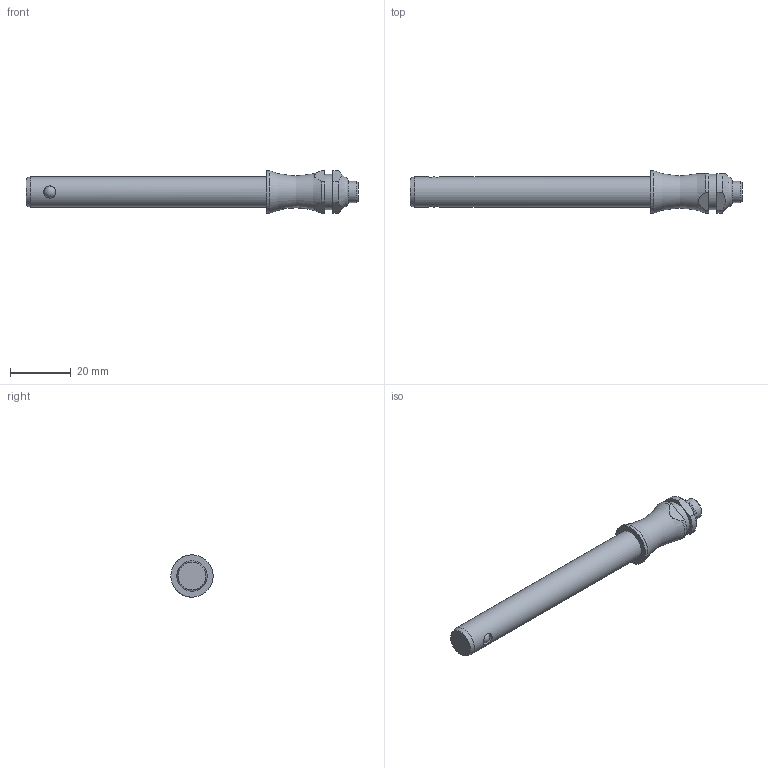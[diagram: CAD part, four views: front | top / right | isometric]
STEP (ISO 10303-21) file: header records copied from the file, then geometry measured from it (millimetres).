
FILE_DESCRIPTION( ( 'STEP AP203' ), '1' );
FILE_NAME( 'C:/Temp/Ganter_Step_05_03_2020/data/3_1/gn113_3/Stainless Steel-Ball lock pin GN 113.3-10-70 (activated).stp', '2020-03-12T08:18:36', ( 'License CC BY-ND 4.0' ), ( 'CADENAS' ), ' ', 'PARTsolutions', ' ' );
FILE_SCHEMA( ( 'CONFIG_CONTROL_DESIGN' ) );
Length unit declared in the file: millimetre
Products named in the file (1): _Stainless Steel-Ball lock pin GN 113.3-10-70 (activated)
Bounding box: 109.75 x 14 x 14 mm (x, y, z)
Volume: 9329.7 mm3; surface area: 3951.7 mm2
Topology: 1 solids, 1 shells, 30 faces, 72 edges, 45 vertices
Faces by surface type: cylinder 12, plane 11, cone 3, torus 2, sphere 2
Full cylindrical faces by diameter (mm): 4 x2, 7 x1, 10 x1, 11.6 x1, 14 x1
Entity records: 988 total; most frequent: CARTESIAN_POINT 341, DIRECTION 130, ORIENTED_EDGE 102, AXIS2_PLACEMENT_3D 56, EDGE_CURVE 51, EDGE_LOOP 46, VERTEX_POINT 39, FACE_OUTER_BOUND 38
